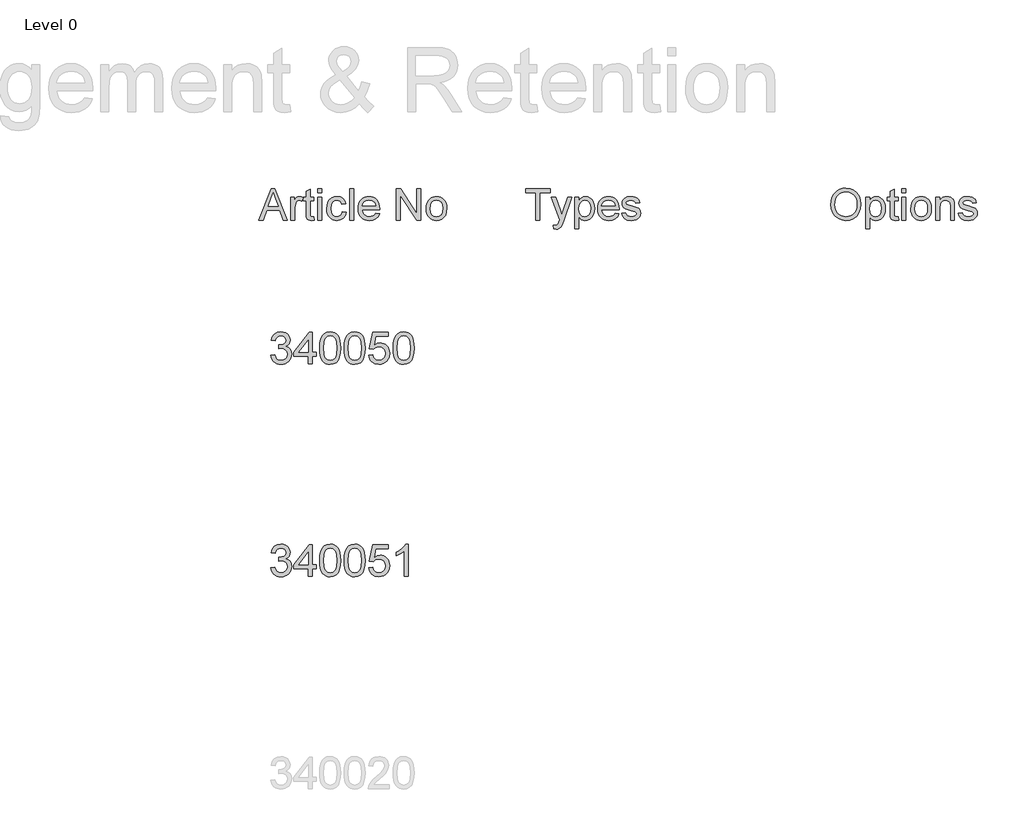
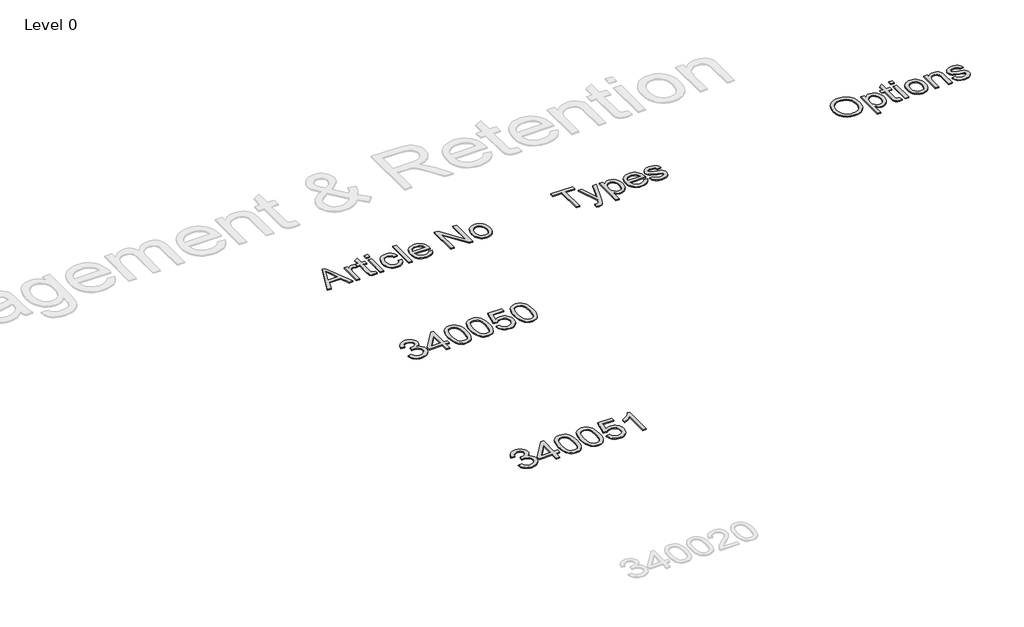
# One storey, part 9 of 10: 5 proxies.
"""IFC4 building model written with IfcOpenShell, lengths in millimetres."""

from ifc_helpers import new_model, si_unit, origin, origin_with_axes, place, context, project, spatial, polyline, outline, extrude, element, save

model = new_model("IFC4")

# Units and contexts
model_context = context("Model", 3, world=origin())
ifc_project = project(units=[si_unit("LENGTHUNIT", "METRE", prefix="MILLI")], contexts=[model_context])

# Site, building, storey
site = spatial("IfcSite", under=ifc_project)
building = spatial("IfcBuilding", under=site)
storey = spatial("IfcBuildingStorey", under=building, Name="Level 0", Elevation=0.0)

# Proxies
placement = place(None, origin())
element("IfcBuildingElementProxy", 1, Name="300mm Arial", ObjectType="300mm Arial", at=placement, inside=storey, context=model_context, shape_type="SweptSolid", body=[
    extrude(outline(polyline([(-6261.3392155, 10357.1231623), (-6223.6680991, 10361.8320519), (-6215.2344044, 10338.1588455), (-6202.8827664, 10322.1743728), (-6186.0061799, 10313.0692934), (-6163.9976395, 10310.034267), (-6138.1723235, 10314.2097276), (-6118.2331193, 10326.7361095), (-6105.4860082, 10345.4245149), (-6101.2369711, 10368.0860458), (-6105.44922, 10389.5979455), (-6118.0859665, 10407.0447491), (-6137.2158303, 10418.6054408), (-6160.9074308, 10422.4590047), (-6187.321358, 10418.3387263), (-6183.1275033, 10456.0098427), (-6177.0942386, 10455.5683843), (-6154.5246782, 10458.2723169), (-6134.3463507, 10466.3841149), (-6120.1093175, 10480.1061133), (-6115.3636398, 10499.6406473), (-6118.8033364, 10515.9102285), (-6129.1224264, 10529.1079951), (-6144.8677758, 10537.8543895), (-6164.5862507, 10540.7698543), (-6184.3415139, 10537.8267984), (-6200.4915334, 10528.9976305), (-6212.2821514, 10514.2823507), (-6218.9592096, 10493.680959), (-6256.6303259, 10498.3898485), (-6245.5386838, 10532.216598), (-6225.8018147, 10557.4716969), (-6198.7992763, 10573.1986522), (-6165.9106259, 10578.4409706), (-6142.2282225, 10575.8565996), (-6120.4771995, 10568.1034866), (-6102.138282, 10555.8714102), (-6088.6921951, 10539.8501494), (-6080.4424414, 10521.3916702), (-6077.6925235, 10501.8479393), (-6080.3044856, 10483.6377805), (-6088.1403721, 10467.1198789), (-6101.0898184, 10453.0483926), (-6119.0424597, 10442.1774796), (-6095.4612238, 10432.649336), (-6077.9868291, 10416.42574), (-6067.1710984, 10394.3896085), (-6063.5658548, 10367.4238582), (-6065.3684766, 10348.3123886), (-6070.7763419, 10330.7092351), (-6079.7894508, 10314.6143978), (-6092.4078033, 10300.0278767), (-6107.7806721, 10287.9245591), (-6125.0573303, 10279.2793322), (-6144.2377779, 10274.092196), (-6165.3220147, 10272.3631507), (-6184.3783021, 10273.8392772), (-6201.7423322, 10278.2676567), (-6217.4141052, 10285.6482892), (-6231.393621, 10295.9811747), (-6243.1152611, 10308.659308), (-6252.0134069, 10323.0756837), (-6258.0880583, 10339.2303018), (-6261.3392155, 10357.1231623)])), origin_with_axes(), (0.0, 0.0, 1.0), 10.0),
    extrude(outline(polyline([(-5908.1725001, 10277.0720402), (-5908.1725001, 10347.7053833), (-6044.7302967, 10347.7053833), (-6044.7302967, 10385.3764996), (-5898.754721, 10573.7320811), (-5870.5013838, 10573.7320811), (-5870.5013838, 10385.3764996), (-5832.8302675, 10385.3764996), (-5832.8302675, 10347.7053833), (-5870.5013838, 10347.7053833), (-5870.5013838, 10277.0720402), (-5908.1725001, 10277.0720402)]), holes=[polyline([(-5908.1725001, 10385.3764996), (-5908.1725001, 10501.7743629), (-5998.3771653, 10385.3764996), (-5908.1725001, 10385.3764996)])]), origin_with_axes(), (0.0, 0.0, 1.0), 10.0),
    extrude(outline(polyline([(-5799.8680407, 10425.3284843), (-5797.0997287, 10473.5670109), (-5788.7947926, 10512.0382705), (-5775.036006, 10541.3308744), (-5755.9061423, 10562.0334337), (-5731.2672456, 10574.3390864), (-5700.9813604, 10578.4409706), (-5677.7680065, 10576.0129495), (-5656.9826738, 10568.728886), (-5639.6002495, 10556.8738887), (-5626.595621, 10540.7330661), (-5616.7731717, 10520.4443741), (-5608.9372852, 10496.1457683), (-5603.8053314, 10465.289666), (-5602.0946801, 10425.3284843), (-5604.835401, 10377.3658691), (-5613.0575635, 10338.98658), (-5626.7335767, 10309.666385), (-5645.8358493, 10288.8810522), (-5670.5299282, 10276.4926261), (-5700.9813604, 10272.3631507), (-5721.7299049, 10274.1565754), (-5740.1240047, 10279.5368496), (-5756.1636597, 10288.5039732), (-5769.8488699, 10301.0579463), (-5782.9822571, 10323.7516669), (-5792.363248, 10352.0279967), (-5797.9918425, 10385.8869358), (-5799.8680407, 10425.3284843)]), holes=[polyline([(-5762.1969244, 10425.4020607), (-5757.7823405, 10366.1454683), (-5752.2641105, 10345.8774696), (-5744.5385886, 10331.8496693), (-5724.8201137, 10315.4881175), (-5700.9813604, 10310.034267), (-5677.1426071, 10315.5065116), (-5657.4241322, 10331.9232457), (-5649.6986103, 10345.9740386), (-5644.1803803, 10366.2374388), (-5639.7657964, 10425.4020607), (-5644.0332275, 10483.3250808), (-5649.3675165, 10503.5264009), (-5656.835521, 10517.8875942), (-5676.5172077, 10535.0492893), (-5701.4228188, 10540.7698543), (-5725.0040547, 10535.729871), (-5743.9499774, 10520.609921), (-5751.9330167, 10504.9749362), (-5757.6351877, 10483.8952979), (-5762.1969244, 10425.4020607)])]), origin_with_axes(), (0.0, 0.0, 1.0), 10.0),
    extrude(outline(polyline([(-5569.1324533, 10425.3284843), (-5566.3641413, 10473.5670109), (-5558.0592053, 10512.0382705), (-5544.3004187, 10541.3308744), (-5525.1705549, 10562.0334337), (-5500.5316583, 10574.3390864), (-5470.245773, 10578.4409706), (-5447.0324191, 10576.0129495), (-5426.2470864, 10568.728886), (-5408.8646621, 10556.8738887), (-5395.8600336, 10540.7330661), (-5386.0375843, 10520.4443741), (-5378.2016978, 10496.1457683), (-5373.069744, 10465.289666), (-5371.3590927, 10425.3284843), (-5374.0998136, 10377.3658691), (-5382.3219762, 10338.98658), (-5395.9979893, 10309.666385), (-5415.1002619, 10288.8810522), (-5439.7943409, 10276.4926261), (-5470.245773, 10272.3631507), (-5490.9943175, 10274.1565754), (-5509.3884173, 10279.5368496), (-5525.4280723, 10288.5039732), (-5539.1132825, 10301.0579463), (-5552.2466697, 10323.7516669), (-5561.6276606, 10352.0279967), (-5567.2562552, 10385.8869358), (-5569.1324533, 10425.3284843)]), holes=[polyline([(-5531.461337, 10425.4020607), (-5527.0467531, 10366.1454683), (-5521.5285231, 10345.8774696), (-5513.8030013, 10331.8496693), (-5494.0845263, 10315.4881175), (-5470.245773, 10310.034267), (-5446.4070197, 10315.5065116), (-5426.6885448, 10331.9232457), (-5418.9630229, 10345.9740386), (-5413.444793, 10366.2374388), (-5409.030209, 10425.4020607), (-5413.2976402, 10483.3250808), (-5418.6319291, 10503.5264009), (-5426.0999336, 10517.8875942), (-5445.7816203, 10535.0492893), (-5470.6872314, 10540.7698543), (-5494.2684673, 10535.729871), (-5513.2143901, 10520.609921), (-5521.1974294, 10504.9749362), (-5526.8996003, 10483.8952979), (-5531.461337, 10425.4020607)])]), origin_with_axes(), (0.0, 0.0, 1.0), 10.0),
    extrude(outline(polyline([(-5338.396866, 10357.1231623), (-5300.7257496, 10361.8320519), (-5293.8095681, 10339.2165062), (-5281.7430387, 10323.0205014), (-5264.5813436, 10313.2808256), (-5242.3796652, 10310.034267), (-5215.3771268, 10314.5500185), (-5195.143617, 10328.0972729), (-5182.5068705, 10349.1125319), (-5178.2946216, 10376.0322969), (-5182.240156, 10401.3793664), (-5194.0767592, 10420.7667475), (-5213.8964017, 10433.0724003), (-5241.791054, 10437.1742845), (-5260.0655921, 10435.5372096), (-5274.8636454, 10430.625985), (-5296.0168601, 10413.6298368), (-5333.6879764, 10418.3387263), (-5300.7257496, 10573.7320811), (-5154.750174, 10573.7320811), (-5154.750174, 10536.0609648), (-5270.2651204, 10536.0609648), (-5286.3783518, 10453.0667867), (-5259.4677839, 10469.4007473), (-5231.269629, 10474.8454008), (-5212.9238137, 10473.1577422), (-5196.0725191, 10468.0947662), (-5180.715745, 10459.6564729), (-5166.8534916, 10447.8428624), (-5155.3778726, 10433.3759029), (-5147.1810019, 10416.977563), (-5142.2628795, 10398.6478426), (-5140.6235053, 10378.3867417), (-5146.5280114, 10340.7156254), (-5153.9086439, 10323.9218123), (-5164.2415294, 10308.4891626), (-5179.8949083, 10292.6840324), (-5198.1602494, 10281.3946536), (-5219.0375526, 10274.6210264), (-5242.526818, 10272.3631507), (-5279.5265497, 10278.1664891), (-5295.2052205, 10285.4206622), (-5309.0030945, 10295.5765046), (-5320.483312, 10308.1281784), (-5329.2090131, 10322.569846), (-5338.396866, 10357.1231623)])), origin_with_axes(), (0.0, 0.0, 1.0), 10.0),
    extrude(outline(polyline([(-5107.6612786, 10425.3284843), (-5104.8929666, 10473.5670109), (-5096.5880305, 10512.0382705), (-5082.8292439, 10541.3308744), (-5063.6993802, 10562.0334337), (-5039.0604835, 10574.3390864), (-5008.7745983, 10578.4409706), (-4985.5612444, 10576.0129495), (-4964.7759116, 10568.728886), (-4947.3934874, 10556.8738887), (-4934.3888588, 10540.7330661), (-4924.5664096, 10520.4443741), (-4916.7305231, 10496.1457683), (-4911.5985692, 10465.289666), (-4909.887918, 10425.3284843), (-4912.6286388, 10377.3658691), (-4920.8508014, 10338.98658), (-4934.5268146, 10309.666385), (-4953.6290872, 10288.8810522), (-4978.3231661, 10276.4926261), (-5008.7745983, 10272.3631507), (-5029.5231428, 10274.1565754), (-5047.9172426, 10279.5368496), (-5063.9568975, 10288.5039732), (-5077.6421078, 10301.0579463), (-5090.775495, 10323.7516669), (-5100.1564859, 10352.0279967), (-5105.7850804, 10385.8869358), (-5107.6612786, 10425.3284843)]), holes=[polyline([(-5069.9901623, 10425.4020607), (-5065.5755783, 10366.1454683), (-5060.0573484, 10345.8774696), (-5052.3318265, 10331.8496693), (-5032.6133516, 10315.4881175), (-5008.7745983, 10310.034267), (-4984.935845, 10315.5065116), (-4965.21737, 10331.9232457), (-4957.4918481, 10345.9740386), (-4951.9736182, 10366.2374388), (-4947.5590343, 10425.4020607), (-4951.8264654, 10483.3250808), (-4957.1607543, 10503.5264009), (-4964.6287589, 10517.8875942), (-4984.3104456, 10535.0492893), (-5009.2160567, 10540.7698543), (-5032.7972926, 10535.729871), (-5051.7432153, 10520.609921), (-5059.7262546, 10504.9749362), (-5065.4284255, 10483.8952979), (-5069.9901623, 10425.4020607)])]), origin_with_axes(), (0.0, 0.0, 1.0), 10.0),
])
element("IfcBuildingElementProxy", 2, Name="300mm Arial", ObjectType="300mm Arial", at=placement, inside=storey, context=model_context, shape_type="SweptSolid", body=[
    extrude(outline(polyline([(-6261.3392155, 8357.1231623), (-6223.6680991, 8361.8320519), (-6215.2344044, 8338.1588455), (-6202.8827664, 8322.1743728), (-6186.0061799, 8313.0692934), (-6163.9976395, 8310.034267), (-6138.1723235, 8314.2097276), (-6118.2331193, 8326.7361095), (-6105.4860082, 8345.4245149), (-6101.2369711, 8368.0860458), (-6105.44922, 8389.5979455), (-6118.0859665, 8407.0447491), (-6137.2158303, 8418.6054408), (-6160.9074308, 8422.4590047), (-6187.321358, 8418.3387263), (-6183.1275033, 8456.0098427), (-6177.0942386, 8455.5683843), (-6154.5246782, 8458.2723169), (-6134.3463507, 8466.3841149), (-6120.1093175, 8480.1061133), (-6115.3636398, 8499.6406473), (-6118.8033364, 8515.9102285), (-6129.1224264, 8529.1079951), (-6144.8677758, 8537.8543895), (-6164.5862507, 8540.7698543), (-6184.3415139, 8537.8267984), (-6200.4915334, 8528.9976305), (-6212.2821514, 8514.2823507), (-6218.9592096, 8493.680959), (-6256.6303259, 8498.3898485), (-6245.5386838, 8532.216598), (-6225.8018147, 8557.4716969), (-6198.7992763, 8573.1986522), (-6165.9106259, 8578.4409706), (-6142.2282225, 8575.8565996), (-6120.4771995, 8568.1034866), (-6102.138282, 8555.8714102), (-6088.6921951, 8539.8501494), (-6080.4424414, 8521.3916702), (-6077.6925235, 8501.8479393), (-6080.3044856, 8483.6377805), (-6088.1403721, 8467.1198789), (-6101.0898184, 8453.0483926), (-6119.0424597, 8442.1774796), (-6095.4612238, 8432.649336), (-6077.9868291, 8416.42574), (-6067.1710984, 8394.3896085), (-6063.5658548, 8367.4238582), (-6065.3684766, 8348.3123886), (-6070.7763419, 8330.7092351), (-6079.7894508, 8314.6143978), (-6092.4078033, 8300.0278767), (-6107.7806721, 8287.9245591), (-6125.0573303, 8279.2793322), (-6144.2377779, 8274.092196), (-6165.3220147, 8272.3631507), (-6184.3783021, 8273.8392772), (-6201.7423322, 8278.2676567), (-6217.4141052, 8285.6482892), (-6231.393621, 8295.9811747), (-6243.1152611, 8308.659308), (-6252.0134069, 8323.0756837), (-6258.0880583, 8339.2303018), (-6261.3392155, 8357.1231623)])), origin_with_axes(), (0.0, 0.0, 1.0), 10.0),
    extrude(outline(polyline([(-5908.1725001, 8277.0720402), (-5908.1725001, 8347.7053833), (-6044.7302967, 8347.7053833), (-6044.7302967, 8385.3764996), (-5898.754721, 8573.7320811), (-5870.5013838, 8573.7320811), (-5870.5013838, 8385.3764996), (-5832.8302675, 8385.3764996), (-5832.8302675, 8347.7053833), (-5870.5013838, 8347.7053833), (-5870.5013838, 8277.0720402), (-5908.1725001, 8277.0720402)]), holes=[polyline([(-5908.1725001, 8385.3764996), (-5908.1725001, 8501.7743629), (-5998.3771653, 8385.3764996), (-5908.1725001, 8385.3764996)])]), origin_with_axes(), (0.0, 0.0, 1.0), 10.0),
    extrude(outline(polyline([(-5799.8680407, 8425.3284843), (-5797.0997287, 8473.5670109), (-5788.7947926, 8512.0382705), (-5775.036006, 8541.3308744), (-5755.9061423, 8562.0334337), (-5731.2672456, 8574.3390864), (-5700.9813604, 8578.4409706), (-5677.7680065, 8576.0129495), (-5656.9826738, 8568.728886), (-5639.6002495, 8556.8738887), (-5626.595621, 8540.7330661), (-5616.7731717, 8520.4443741), (-5608.9372852, 8496.1457683), (-5603.8053314, 8465.289666), (-5602.0946801, 8425.3284843), (-5604.835401, 8377.3658691), (-5613.0575635, 8338.98658), (-5626.7335767, 8309.666385), (-5645.8358493, 8288.8810522), (-5670.5299282, 8276.4926261), (-5700.9813604, 8272.3631507), (-5721.7299049, 8274.1565754), (-5740.1240047, 8279.5368496), (-5756.1636597, 8288.5039732), (-5769.8488699, 8301.0579463), (-5782.9822571, 8323.7516669), (-5792.363248, 8352.0279967), (-5797.9918425, 8385.8869358), (-5799.8680407, 8425.3284843)]), holes=[polyline([(-5762.1969244, 8425.4020607), (-5757.7823405, 8366.1454683), (-5752.2641105, 8345.8774696), (-5744.5385886, 8331.8496693), (-5724.8201137, 8315.4881175), (-5700.9813604, 8310.034267), (-5677.1426071, 8315.5065116), (-5657.4241322, 8331.9232457), (-5649.6986103, 8345.9740386), (-5644.1803803, 8366.2374388), (-5639.7657964, 8425.4020607), (-5644.0332275, 8483.3250808), (-5649.3675165, 8503.5264009), (-5656.835521, 8517.8875942), (-5676.5172077, 8535.0492893), (-5701.4228188, 8540.7698543), (-5725.0040547, 8535.729871), (-5743.9499774, 8520.609921), (-5751.9330167, 8504.9749362), (-5757.6351877, 8483.8952979), (-5762.1969244, 8425.4020607)])]), origin_with_axes(), (0.0, 0.0, 1.0), 10.0),
    extrude(outline(polyline([(-5569.1324533, 8425.3284843), (-5566.3641413, 8473.5670109), (-5558.0592053, 8512.0382705), (-5544.3004187, 8541.3308744), (-5525.1705549, 8562.0334337), (-5500.5316583, 8574.3390864), (-5470.245773, 8578.4409706), (-5447.0324191, 8576.0129495), (-5426.2470864, 8568.728886), (-5408.8646621, 8556.8738887), (-5395.8600336, 8540.7330661), (-5386.0375843, 8520.4443741), (-5378.2016978, 8496.1457683), (-5373.069744, 8465.289666), (-5371.3590927, 8425.3284843), (-5374.0998136, 8377.3658691), (-5382.3219762, 8338.98658), (-5395.9979893, 8309.666385), (-5415.1002619, 8288.8810522), (-5439.7943409, 8276.4926261), (-5470.245773, 8272.3631507), (-5490.9943175, 8274.1565754), (-5509.3884173, 8279.5368496), (-5525.4280723, 8288.5039732), (-5539.1132825, 8301.0579463), (-5552.2466697, 8323.7516669), (-5561.6276606, 8352.0279967), (-5567.2562552, 8385.8869358), (-5569.1324533, 8425.3284843)]), holes=[polyline([(-5531.461337, 8425.4020607), (-5527.0467531, 8366.1454683), (-5521.5285231, 8345.8774696), (-5513.8030013, 8331.8496693), (-5494.0845263, 8315.4881175), (-5470.245773, 8310.034267), (-5446.4070197, 8315.5065116), (-5426.6885448, 8331.9232457), (-5418.9630229, 8345.9740386), (-5413.444793, 8366.2374388), (-5409.030209, 8425.4020607), (-5413.2976402, 8483.3250808), (-5418.6319291, 8503.5264009), (-5426.0999336, 8517.8875942), (-5445.7816203, 8535.0492893), (-5470.6872314, 8540.7698543), (-5494.2684673, 8535.729871), (-5513.2143901, 8520.609921), (-5521.1974294, 8504.9749362), (-5526.8996003, 8483.8952979), (-5531.461337, 8425.4020607)])]), origin_with_axes(), (0.0, 0.0, 1.0), 10.0),
    extrude(outline(polyline([(-5338.396866, 8357.1231623), (-5300.7257496, 8361.8320519), (-5293.8095681, 8339.2165062), (-5281.7430387, 8323.0205014), (-5264.5813436, 8313.2808256), (-5242.3796652, 8310.034267), (-5215.3771268, 8314.5500185), (-5195.143617, 8328.0972729), (-5182.5068705, 8349.1125319), (-5178.2946216, 8376.0322969), (-5182.240156, 8401.3793664), (-5194.0767592, 8420.7667475), (-5213.8964017, 8433.0724003), (-5241.791054, 8437.1742845), (-5260.0655921, 8435.5372096), (-5274.8636454, 8430.625985), (-5296.0168601, 8413.6298368), (-5333.6879764, 8418.3387263), (-5300.7257496, 8573.7320811), (-5154.750174, 8573.7320811), (-5154.750174, 8536.0609648), (-5270.2651204, 8536.0609648), (-5286.3783518, 8453.0667867), (-5259.4677839, 8469.4007473), (-5231.269629, 8474.8454008), (-5212.9238137, 8473.1577422), (-5196.0725191, 8468.0947662), (-5180.715745, 8459.6564729), (-5166.8534916, 8447.8428624), (-5155.3778726, 8433.3759029), (-5147.1810019, 8416.977563), (-5142.2628795, 8398.6478426), (-5140.6235053, 8378.3867417), (-5146.5280114, 8340.7156254), (-5153.9086439, 8323.9218123), (-5164.2415294, 8308.4891626), (-5179.8949083, 8292.6840324), (-5198.1602494, 8281.3946536), (-5219.0375526, 8274.6210264), (-5242.526818, 8272.3631507), (-5279.5265497, 8278.1664891), (-5295.2052205, 8285.4206622), (-5309.0030945, 8295.5765046), (-5320.483312, 8308.1281784), (-5329.2090131, 8322.569846), (-5338.396866, 8357.1231623)])), origin_with_axes(), (0.0, 0.0, 1.0), 10.0),
    extrude(outline(polyline([(-4966.3945924, 8277.0720402), (-5004.0657087, 8277.0720402), (-5004.0657087, 8511.9279059), (-5039.7502623, 8486.5072601), (-5079.4079413, 8467.4877609), (-5079.4079413, 8503.098738), (-5049.8210319, 8519.1935753), (-5024.1888539, 8538.3418332), (-5003.9829353, 8558.7041016), (-4990.6748041, 8578.4409706), (-4966.3945924, 8578.4409706), (-4966.3945924, 8277.0720402)])), origin_with_axes(), (0.0, 0.0, 1.0), 10.0),
])
element("IfcBuildingElementProxy", 3, Name="300mm Arial", ObjectType="300mm Arial", at=placement, inside=storey, context=model_context, shape_type="SweptSolid", body=[
    extrude(outline(polyline([(-3764.0209274, 11631.8762937), (-3764.0209274, 11890.3378322), (-3860.9440044, 11890.3378322), (-3860.9440044, 11927.2609091), (-3630.1747736, 11927.2609091), (-3630.1747736, 11890.3378322), (-3727.0978505, 11890.3378322), (-3727.0978505, 11631.8762937), (-3764.0209274, 11631.8762937)])), origin_with_axes(), (0.0, 0.0, 1.0), 10.0),
    extrude(outline(polyline([(-3593.2516967, 11548.7993706), (-3597.8670813, 11584.3522552), (-3579.1170813, 11581.1070629), (-3561.5930428, 11585.1815822), (-3550.8478505, 11596.5397552), (-3540.7516967, 11623.7272552), (-3537.8670813, 11632.6695629), (-3616.3286198, 11848.7993706), (-3577.3863121, 11848.7993706), (-3535.7757351, 11728.3666783), (-3521.2805428, 11680.1936014), (-3506.7853505, 11722.7416783), (-3464.0209274, 11848.7993706), (-3425.3670813, 11848.7993706), (-3500.871889, 11626.683986), (-3520.4872736, 11578.5109091), (-3530.5293409, 11563.1323033), (-3541.9055428, 11552.4772552), (-3555.1206871, 11546.2573033), (-3570.6795813, 11544.183986), (-3593.2516967, 11548.7993706)])), origin_with_axes(), (0.0, 0.0, 1.0), 10.0),
    extrude(outline(polyline([(-3394.7901582, 11548.7993706), (-3394.7901582, 11848.7993706), (-3357.8670813, 11848.7993706), (-3357.8670813, 11812.5974476), (-3345.8238121, 11830.4550197), (-3332.3382351, 11843.2104283), (-3316.6170813, 11850.8636735), (-3297.8670813, 11853.4147552), (-3272.8971294, 11849.8450437), (-3251.0641967, 11839.1359091), (-3233.2877544, 11821.9363899), (-3220.4872736, 11798.8955245), (-3212.7528986, 11771.6899956), (-3210.1747736, 11741.996486), (-3213.0864323, 11710.418962), (-3221.8214082, 11682.1767745), (-3236.1002544, 11658.7032168), (-3255.6435236, 11641.4315822), (-3278.4049419, 11630.8035774), (-3302.3382351, 11627.2609091), (-3319.3123938, 11629.6317024), (-3334.465639, 11636.7440822), (-3347.4373938, 11647.4802601), (-3357.8670813, 11660.7224476), (-3357.8670813, 11548.7993706), (-3394.7901582, 11548.7993706)]), holes=[polyline([(-3357.8670813, 11738.6070629), (-3353.8736919, 11705.5061014), (-3341.8935236, 11682.3570629), (-3324.2162399, 11668.7272552), (-3303.1315044, 11664.183986), (-3281.7042207, 11668.8895149), (-3263.5762159, 11683.0061014), (-3251.2174419, 11707.0024956), (-3247.0978505, 11741.3474476), (-3251.1182832, 11774.2681206), (-3263.1795813, 11797.7416783), (-3280.8298217, 11811.8041783), (-3301.6170813, 11816.4916783), (-3322.4854707, 11811.5067024), (-3340.8117928, 11796.5517745), (-3353.6032592, 11772.0956447), (-3357.8670813, 11738.6070629)])]), origin_with_axes(), (0.0, 0.0, 1.0), 10.0),
    extrude(outline(polyline([(-3016.7613121, 11696.4916783), (-2980.559389, 11691.8762937), (-2993.6032592, 11664.5986495), (-3014.4175621, 11644.2080245), (-3042.5335476, 11631.4976879), (-3077.4824659, 11627.2609091), (-3100.3926222, 11629.0885834), (-3120.8057832, 11634.5716062), (-3138.7219491, 11643.7099776), (-3154.1411198, 11656.5036976), (-3166.5404587, 11672.5966964), (-3175.3971294, 11691.6329043), (-3180.7111318, 11713.6123214), (-3182.4824659, 11738.5349476), (-3180.6931029, 11764.3026759), (-3175.325014, 11787.0145149), (-3166.3781991, 11806.6704644), (-3153.8526582, 11823.2705245), (-3138.4740524, 11836.4586254), (-3120.9680428, 11845.8786976), (-3101.3346294, 11851.5307408), (-3079.5738121, 11853.4147552), (-3058.5138662, 11851.535248), (-3039.4686438, 11845.8967264), (-3022.438145, 11836.4991903), (-3007.4223698, 11823.3426399), (-2995.165008, 11806.7786375), (-2986.4097496, 11787.1587456), (-2981.1565945, 11764.4829644), (-2979.4055428, 11738.7512937), (-2979.621889, 11728.7993706), (-3145.559389, 11728.7993706), (-3139.168163, 11701.1611495), (-3124.3214082, 11680.8426399), (-3102.8941246, 11668.3486495), (-3076.7613121, 11664.183986), (-3057.1098698, 11666.1130726), (-3040.559389, 11671.9003322), (-3027.1098698, 11681.9063418), (-3016.7613121, 11696.4916783)]), holes=[polyline([(-3145.559389, 11765.7224476), (-3016.3286198, 11765.7224476), (-3021.3226101, 11785.2296591), (-3031.1122736, 11799.183986), (-3052.6387159, 11812.1647552), (-3079.7180428, 11816.4916783), (-3104.6068649, 11813.0391543), (-3125.1867928, 11802.6815822), (-3139.4926823, 11786.5367504), (-3145.559389, 11765.7224476)])]), origin_with_axes(), (0.0, 0.0, 1.0), 10.0),
    extrude(outline(polyline([(-2956.3286198, 11696.4916783), (-2919.4055428, 11701.1070629), (-2913.5822255, 11685.3137937), (-2902.3141967, 11673.7032168), (-2885.5293409, 11666.5637937), (-2863.1555428, 11664.183986), (-2841.0521774, 11666.3654764), (-2825.5113121, 11672.9099476), (-2816.3166005, 11682.3931206), (-2813.2516967, 11693.3907168), (-2816.3346294, 11702.8017745), (-2825.5834274, 11709.9772552), (-2863.5882351, 11720.5061014), (-2919.1891967, 11738.5710052), (-2933.2607111, 11747.6485293), (-2943.4560236, 11759.6647552), (-2949.6489323, 11773.8534572), (-2951.7132351, 11789.4484091), (-2950.0545813, 11803.7542985), (-2945.0786198, 11816.9604283), (-2937.2360717, 11828.543962), (-2926.9776582, 11837.9820629), (-2903.5041005, 11848.9075437), (-2871.7372736, 11853.4147552), (-2847.7048217, 11851.6028562), (-2826.809389, 11846.1671591), (-2810.0065044, 11837.6395149), (-2798.2516967, 11826.5517745), (-2790.4632351, 11812.0836254), (-2785.559389, 11793.4147552), (-2822.4824659, 11788.7993706), (-2827.1429226, 11800.418962), (-2836.3646774, 11809.1719668), (-2850.2378746, 11814.6617504), (-2868.8526582, 11816.4916783), (-2890.0545813, 11814.7428802), (-2904.1891967, 11809.496486), (-2912.1399178, 11801.9243706), (-2914.7901582, 11793.1984091), (-2910.3911198, 11782.4532168), (-2896.6170813, 11774.3041783), (-2864.8141967, 11766.4436014), (-2810.6194851, 11749.0637937), (-2796.3045813, 11740.7524956), (-2785.4512159, 11729.3762937), (-2778.6092688, 11714.8991302), (-2776.3286198, 11697.2849476), (-2779.0059034, 11679.0758129), (-2787.0377544, 11661.9484091), (-2800.1176823, 11647.2458851), (-2817.9391967, 11636.3113899), (-2839.465639, 11629.5235293), (-2863.6603505, 11627.2609091), (-2900.8899178, 11631.6238899), (-2928.059389, 11644.7128322), (-2946.1964082, 11666.3835052), (-2956.3286198, 11696.4916783)])), origin_with_axes(), (0.0, 0.0, 1.0), 10.0),
])
element("IfcBuildingElementProxy", 4, Name="300mm Arial", ObjectType="300mm Arial", at=placement, inside=storey, context=model_context, shape_type="SweptSolid", body=[
    extrude(outline(polyline([(-983.9927919, 11775.6743706), (-981.5318544, 11810.3213057), (-974.1490419, 11840.9928802), (-961.8443544, 11867.6890942), (-944.6177919, 11890.4099476), (-923.5015058, 11908.551474), (-899.5276476, 11921.5097072), (-872.6962173, 11929.2846471), (-843.0072149, 11931.8762937), (-804.2632246, 11927.0085052), (-769.521638, 11912.4051399), (-740.6754842, 11889.0938418), (-719.6177919, 11858.1022552), (-706.7451957, 11820.9267745), (-702.4543303, 11779.0637937), (-706.9705563, 11736.6419187), (-720.5192342, 11698.9436014), (-742.3521669, 11667.8979283), (-771.7211572, 11645.433986), (-806.1652678, 11631.8041783), (-843.2235611, 11627.2609091), (-882.5625034, 11632.2819427), (-917.5024072, 11647.3450437), (-946.2764457, 11671.0890341), (-967.1177919, 11702.152736), (-979.7740419, 11737.8949235), (-983.9927919, 11775.6743706)]), holes=[polyline([(-947.0697149, 11775.3137937), (-945.2240118, 11750.8351278), (-939.6869024, 11729.105861), (-930.4583868, 11710.1259932), (-917.5384649, 11693.8955245), (-901.8330863, 11680.8967264), (-884.2482005, 11671.6118706), (-864.7838075, 11666.0409572), (-843.4399072, 11664.183986), (-821.7309229, 11666.058986), (-802.0366621, 11671.683986), (-784.3571248, 11681.058986), (-768.6923111, 11694.183986), (-755.8670407, 11710.7570028), (-746.7061332, 11730.4760533), (-741.2095887, 11753.3411375), (-739.3774072, 11779.3522552), (-742.5144265, 11812.0385533), (-751.9254842, 11840.2897552), (-767.3671909, 11863.3937216), (-788.5961572, 11880.6383129), (-814.2061332, 11891.3744908), (-842.7908688, 11894.9532168), (-863.3933327, 11893.2292084), (-882.5084169, 11888.0571831), (-900.1361212, 11879.4371411), (-916.2764457, 11867.3690822), (-929.748501, 11851.2715762), (-939.3713976, 11830.5631927), (-945.1451356, 11805.2439319), (-947.0697149, 11775.3137937)])]), origin_with_axes(), (0.0, 0.0, 1.0), 10.0),
    extrude(outline(polyline([(-656.3004842, 11548.7993706), (-656.3004842, 11848.7993706), (-619.3774072, 11848.7993706), (-619.3774072, 11812.5974476), (-607.334138, 11830.4550197), (-593.8485611, 11843.2104283), (-578.1274072, 11850.8636735), (-559.3774072, 11853.4147552), (-534.4074553, 11849.8450437), (-512.5745226, 11839.1359091), (-494.7980803, 11821.9363899), (-481.9975996, 11798.8955245), (-474.2632246, 11771.6899956), (-471.6850996, 11741.996486), (-474.5967582, 11710.418962), (-483.3317342, 11682.1767745), (-497.6105803, 11658.7032168), (-517.1538496, 11641.4315822), (-539.9152678, 11630.8035774), (-563.8485611, 11627.2609091), (-580.8227197, 11629.6317024), (-595.9759649, 11636.7440822), (-608.9477197, 11647.4802601), (-619.3774072, 11660.7224476), (-619.3774072, 11548.7993706), (-656.3004842, 11548.7993706)]), holes=[polyline([(-619.3774072, 11738.6070629), (-615.3840178, 11705.5061014), (-603.4038496, 11682.3570629), (-585.7265659, 11668.7272552), (-564.6418303, 11664.183986), (-543.2145467, 11668.8895149), (-525.0865419, 11683.0061014), (-512.7277678, 11707.0024956), (-508.6081765, 11741.3474476), (-512.6286092, 11774.2681206), (-524.6899072, 11797.7416783), (-542.3401476, 11811.8041783), (-563.1274072, 11816.4916783), (-583.9957967, 11811.5067024), (-602.3221188, 11796.5517745), (-615.1135851, 11772.0956447), (-619.3774072, 11738.6070629)])]), origin_with_axes(), (0.0, 0.0, 1.0), 10.0),
    extrude(outline(polyline([(-351.6850996, 11662.6695629), (-347.0697149, 11630.7945629), (-374.6899072, 11627.2609091), (-392.412263, 11628.793361), (-405.6274072, 11633.3907168), (-414.9663496, 11640.4760533), (-421.0600996, 11649.4724476), (-424.4134649, 11664.9231687), (-425.5312534, 11691.371486), (-425.5312534, 11811.8762937), (-453.2235611, 11811.8762937), (-453.2235611, 11848.7993706), (-425.5312534, 11848.7993706), (-425.5312534, 11901.5157168), (-388.6081765, 11923.2224476), (-388.6081765, 11848.7993706), (-351.6850996, 11848.7993706), (-351.6850996, 11811.8762937), (-388.6081765, 11811.8762937), (-388.6081765, 11692.4532168), (-386.6610611, 11673.4147552), (-380.3509649, 11666.6719668), (-367.7668303, 11664.183986), (-351.6850996, 11662.6695629)])), origin_with_axes(), (0.0, 0.0, 1.0), 10.0),
    extrude(outline(polyline([(-314.7620226, 11631.8762937), (-314.7620226, 11848.7993706), (-277.8389457, 11848.7993706), (-277.8389457, 11631.8762937), (-314.7620226, 11631.8762937)])), origin_with_axes(), (0.0, 0.0, 1.0), 10.0),
    extrude(outline(polyline([(-314.7620226, 11890.3378322), (-314.7620226, 11927.2609091), (-277.8389457, 11927.2609091), (-277.8389457, 11890.3378322), (-314.7620226, 11890.3378322)])), origin_with_axes(), (0.0, 0.0, 1.0), 10.0),
    extrude(outline(polyline([(-231.6850996, 11740.3378322), (-229.6884048, 11768.4312817), (-223.6983207, 11792.6395149), (-213.7148471, 11812.9625317), (-199.7379842, 11829.4003322), (-185.6664697, 11839.9066423), (-170.1346188, 11847.4111495), (-153.1424313, 11851.9138538), (-134.6899072, 11853.4147552), (-114.3195647, 11851.587081), (-95.9008447, 11846.1040581), (-79.4337474, 11836.9656867), (-64.9182726, 11824.1719668), (-53.0710671, 11808.1555906), (-44.6087774, 11789.3492504), (-39.5314036, 11767.7529464), (-37.8389457, 11743.3666783), (-40.8317342, 11706.0649956), (-49.8100996, 11677.6695629), (-64.5126236, 11656.4045389), (-84.677888, 11640.4940822), (-108.6292101, 11630.5692024), (-134.6899072, 11627.2609091), (-155.3577258, 11629.0818226), (-173.9477197, 11634.5445629), (-190.4598892, 11643.6491302), (-204.8942342, 11656.3955245), (-216.6152378, 11672.5673995), (-224.9873832, 11691.9484091), (-230.0106705, 11714.5385533), (-231.6850996, 11740.3378322)]), holes=[polyline([(-194.7620226, 11740.4099476), (-190.4891861, 11706.9934812), (-177.6706765, 11683.1863899), (-158.3798111, 11668.934587), (-134.6899072, 11664.183986), (-111.1081765, 11668.9616302), (-91.8533688, 11683.2945629), (-79.0348592, 11707.4171591), (-74.7620226, 11741.5637937), (-79.0619024, 11774.0067024), (-91.9615419, 11797.4892745), (-111.2433928, 11811.7410774), (-134.6899072, 11816.4916783), (-158.3798111, 11811.7591062), (-177.6706765, 11797.5613899), (-190.4891861, 11773.8083851), (-194.7620226, 11740.4099476)])]), origin_with_axes(), (0.0, 0.0, 1.0), 10.0),
    extrude(outline(polyline([(3.6995158, 11631.8762937), (3.6995158, 11848.7993706), (40.6225928, 11848.7993706), (40.6225928, 11818.5109091), (53.4501168, 11833.7813418), (68.8557658, 11844.6887937), (86.8395399, 11851.2332649), (107.4014389, 11853.4147552), (125.6015591, 11851.6569427), (142.2692274, 11846.3835052), (156.1694678, 11838.2524956), (166.0673043, 11827.9219668), (177.1370158, 11800.7705245), (179.0841312, 11765.0734091), (179.0841312, 11631.8762937), (142.1610543, 11631.8762937), (142.1610543, 11760.0974476), (137.9062466, 11792.7657168), (132.0198283, 11802.4922793), (122.8701889, 11810.0373514), (111.1424245, 11814.8780966), (97.5216312, 11816.4916783), (75.8960303, 11812.8678802), (57.4615351, 11801.996486), (50.0944978, 11793.1217865), (44.8323283, 11780.9928802), (40.6225928, 11746.9724476), (40.6225928, 11631.8762937), (3.6995158, 11631.8762937)])), origin_with_axes(), (0.0, 0.0, 1.0), 10.0),
    extrude(outline(polyline([(216.0072081, 11696.4916783), (252.9302851, 11701.1070629), (258.7536024, 11685.3137937), (270.0216312, 11673.7032168), (286.806487, 11666.5637937), (309.1802851, 11664.183986), (331.2836504, 11666.3654764), (346.8245158, 11672.9099476), (356.0192274, 11682.3931206), (359.0841312, 11693.3907168), (356.0011985, 11702.8017745), (346.7524004, 11709.9772552), (308.7475928, 11720.5061014), (253.1466312, 11738.5710052), (239.0751168, 11747.6485293), (228.8798043, 11759.6647552), (222.6868956, 11773.8534572), (220.6225928, 11789.4484091), (222.2812466, 11803.7542985), (227.2572081, 11816.9604283), (235.0997562, 11828.543962), (245.3581697, 11837.9820629), (268.8317274, 11848.9075437), (300.5985543, 11853.4147552), (324.6310062, 11851.6028562), (345.5264389, 11846.1671591), (362.3293235, 11837.6395149), (374.0841312, 11826.5517745), (381.8725928, 11812.0836254), (386.7764389, 11793.4147552), (349.853362, 11788.7993706), (345.1929053, 11800.418962), (335.9711504, 11809.1719668), (322.0979533, 11814.6617504), (303.4831697, 11816.4916783), (282.2812466, 11814.7428802), (268.1466312, 11809.496486), (260.1959101, 11801.9243706), (257.5456697, 11793.1984091), (261.9447081, 11782.4532168), (275.7187466, 11774.3041783), (307.5216312, 11766.4436014), (361.7163428, 11749.0637937), (376.0312466, 11740.7524956), (386.884612, 11729.3762937), (393.7265591, 11714.8991302), (396.0072081, 11697.2849476), (393.3299245, 11679.0758129), (385.2980735, 11661.9484091), (372.2181456, 11647.2458851), (354.3966312, 11636.3113899), (332.8701889, 11629.5235293), (308.6754774, 11627.2609091), (271.4459101, 11631.6238899), (244.2764389, 11644.7128322), (226.1394197, 11666.3835052), (216.0072081, 11696.4916783)])), origin_with_axes(), (0.0, 0.0, 1.0), 10.0),
])
element("IfcBuildingElementProxy", 5, Name="300mm Arial", ObjectType="300mm Arial", at=placement, inside=storey, context=model_context, shape_type="SweptSolid", body=[
    extrude(outline(polyline([(-6372.2661198, 11631.8762937), (-6254.3574659, 11927.2609091), (-6222.9151582, 11927.2609091), (-6105.0065044, 11631.8762937), (-6144.0209274, 11631.8762937), (-6177.8430428, 11724.183986), (-6299.5016967, 11724.183986), (-6333.2516967, 11631.8762937), (-6372.2661198, 11631.8762937)]), holes=[polyline([(-6285.9440044, 11761.1070629), (-6191.3286198, 11761.1070629), (-6217.9391967, 11833.7272552), (-6238.6363121, 11890.3378322), (-6257.0257351, 11840.0734091), (-6285.9440044, 11761.1070629)])]), origin_with_axes(), (0.0, 0.0, 1.0), 10.0),
    extrude(outline(polyline([(-6070.1747736, 11631.8762937), (-6070.1747736, 11848.7993706), (-6037.8670813, 11848.7993706), (-6037.8670813, 11816.7080245), (-6025.9319851, 11835.3137937), (-6014.934389, 11846.2753322), (-6003.9007351, 11851.6298995), (-5991.8574659, 11853.4147552), (-5973.4680428, 11850.5661976), (-5954.7901582, 11842.0205245), (-5967.121889, 11808.9195629), (-5980.1026582, 11814.5986495), (-5993.0834274, 11816.4916783), (-6004.1080669, 11814.6707649), (-6013.9608313, 11809.2080245), (-6021.9205669, 11800.5181206), (-6027.2661198, 11789.0157168), (-6031.7553024, 11768.3907168), (-6033.2516967, 11745.8907168), (-6033.2516967, 11631.8762937), (-6070.1747736, 11631.8762937)])), origin_with_axes(), (0.0, 0.0, 1.0), 10.0),
    extrude(outline(polyline([(-5853.2516967, 11662.6695629), (-5848.6363121, 11630.7945629), (-5876.2565044, 11627.2609091), (-5893.9788601, 11628.793361), (-5907.1940044, 11633.3907168), (-5916.5329467, 11640.4760533), (-5922.6266967, 11649.4724476), (-5925.9800621, 11664.9231687), (-5927.0978505, 11691.371486), (-5927.0978505, 11811.8762937), (-5954.7901582, 11811.8762937), (-5954.7901582, 11848.7993706), (-5927.0978505, 11848.7993706), (-5927.0978505, 11901.5157168), (-5890.1747736, 11923.2224476), (-5890.1747736, 11848.7993706), (-5853.2516967, 11848.7993706), (-5853.2516967, 11811.8762937), (-5890.1747736, 11811.8762937), (-5890.1747736, 11692.4532168), (-5888.2276582, 11673.4147552), (-5881.9175621, 11666.6719668), (-5869.3334274, 11664.183986), (-5853.2516967, 11662.6695629)])), origin_with_axes(), (0.0, 0.0, 1.0), 10.0),
    extrude(outline(polyline([(-5816.3286198, 11890.3378322), (-5816.3286198, 11927.2609091), (-5779.4055428, 11927.2609091), (-5779.4055428, 11890.3378322), (-5816.3286198, 11890.3378322)])), origin_with_axes(), (0.0, 0.0, 1.0), 10.0),
    extrude(outline(polyline([(-5816.3286198, 11631.8762937), (-5816.3286198, 11848.7993706), (-5779.4055428, 11848.7993706), (-5779.4055428, 11631.8762937), (-5816.3286198, 11631.8762937)])), origin_with_axes(), (0.0, 0.0, 1.0), 10.0),
    extrude(outline(polyline([(-5585.559389, 11710.3378322), (-5548.6363121, 11705.7224476), (-5558.9307832, 11672.8829043), (-5578.2757351, 11648.0661976), (-5604.8502544, 11632.4622312), (-5636.8334274, 11627.2609091), (-5657.5418109, 11629.0750617), (-5676.1092688, 11634.5175197), (-5692.5358012, 11643.5882829), (-5706.8214082, 11656.2873514), (-5718.3846594, 11672.375843), (-5726.6441246, 11691.6148754), (-5731.5998037, 11714.0044488), (-5733.2516967, 11739.5445629), (-5730.4301823, 11772.4021351), (-5721.965639, 11800.8786976), (-5707.7228505, 11823.8744908), (-5687.5666005, 11840.2897552), (-5663.4530188, 11850.1335052), (-5637.3382351, 11853.4147552), (-5606.1393169, 11848.9075437), (-5581.1964082, 11835.3859091), (-5563.3027784, 11813.5710052), (-5553.2516967, 11784.183986), (-5590.1747736, 11779.5686014), (-5596.8724899, 11795.6773754), (-5607.3021774, 11807.2248514), (-5620.886913, 11814.1749716), (-5637.0497736, 11816.4916783), (-5660.9109515, 11811.9303802), (-5679.8502544, 11798.246486), (-5692.2090284, 11774.7008129), (-5696.3286198, 11740.5541783), (-5692.2991726, 11705.9478081), (-5680.2108313, 11682.3210052), (-5661.6140765, 11668.7182408), (-5638.059389, 11664.183986), (-5618.9397976, 11667.0145149), (-5603.2637159, 11675.5061014), (-5591.8604707, 11689.8750918), (-5585.559389, 11710.3378322)])), origin_with_axes(), (0.0, 0.0, 1.0), 10.0),
    extrude(outline(polyline([(-5516.3286198, 11631.8762937), (-5516.3286198, 11927.2609091), (-5479.4055428, 11927.2609091), (-5479.4055428, 11631.8762937), (-5516.3286198, 11631.8762937)])), origin_with_axes(), (0.0, 0.0, 1.0), 10.0),
    extrude(outline(polyline([(-5272.1459274, 11696.4916783), (-5235.9440044, 11691.8762937), (-5248.9878746, 11664.5986495), (-5269.8021774, 11644.2080245), (-5297.918163, 11631.4976879), (-5332.8670813, 11627.2609091), (-5355.7772375, 11629.0885834), (-5376.1903986, 11634.5716062), (-5394.1065645, 11643.7099776), (-5409.5257351, 11656.5036976), (-5421.9250741, 11672.5966964), (-5430.7817448, 11691.6329043), (-5436.0957472, 11713.6123214), (-5437.8670813, 11738.5349476), (-5436.0777183, 11764.3026759), (-5430.7096294, 11787.0145149), (-5421.7628145, 11806.6704644), (-5409.2372736, 11823.2705245), (-5393.8586678, 11836.4586254), (-5376.3526582, 11845.8786976), (-5356.7192448, 11851.5307408), (-5334.9584274, 11853.4147552), (-5313.8984815, 11851.535248), (-5294.8532592, 11845.8967264), (-5277.8227604, 11836.4991903), (-5262.8069851, 11823.3426399), (-5250.5496234, 11806.7786375), (-5241.7943649, 11787.1587456), (-5236.5412099, 11764.4829644), (-5234.7901582, 11738.7512937), (-5235.0065044, 11728.7993706), (-5400.9440044, 11728.7993706), (-5394.5527784, 11701.1611495), (-5379.7060236, 11680.8426399), (-5358.2787399, 11668.3486495), (-5332.1459274, 11664.183986), (-5312.4944851, 11666.1130726), (-5295.9440044, 11671.9003322), (-5282.4944851, 11681.9063418), (-5272.1459274, 11696.4916783)]), holes=[polyline([(-5400.9440044, 11765.7224476), (-5271.7132351, 11765.7224476), (-5276.7072255, 11785.2296591), (-5286.496889, 11799.183986), (-5308.0233313, 11812.1647552), (-5335.1026582, 11816.4916783), (-5359.9914803, 11813.0391543), (-5380.5714082, 11802.6815822), (-5394.8772976, 11786.5367504), (-5400.9440044, 11765.7224476)])]), origin_with_axes(), (0.0, 0.0, 1.0), 10.0),
    extrude(outline(polyline([(-5077.8670813, 11631.8762937), (-5077.8670813, 11927.2609091), (-5038.3478505, 11927.2609091), (-4884.0209274, 11693.246486), (-4884.0209274, 11927.2609091), (-4847.0978505, 11927.2609091), (-4847.0978505, 11631.8762937), (-4886.6170813, 11631.8762937), (-5040.9440044, 11865.9628322), (-5040.9440044, 11631.8762937), (-5077.8670813, 11631.8762937)])), origin_with_axes(), (0.0, 0.0, 1.0), 10.0),
    extrude(outline(polyline([(-4796.3286198, 11740.3378322), (-4794.331925, 11768.4312817), (-4788.3418409, 11792.6395149), (-4778.3583674, 11812.9625317), (-4764.3815044, 11829.4003322), (-4750.3099899, 11839.9066423), (-4734.778139, 11847.4111495), (-4717.7859515, 11851.9138538), (-4699.3334274, 11853.4147552), (-4678.9630849, 11851.587081), (-4660.5443649, 11846.1040581), (-4644.0772676, 11836.9656867), (-4629.5617928, 11824.1719668), (-4617.7145873, 11808.1555906), (-4609.2522976, 11789.3492504), (-4604.1749238, 11767.7529464), (-4602.4824659, 11743.3666783), (-4605.4752544, 11706.0649956), (-4614.4536198, 11677.6695629), (-4629.1561438, 11656.4045389), (-4649.3214082, 11640.4940822), (-4673.2727303, 11630.5692024), (-4699.3334274, 11627.2609091), (-4720.001246, 11629.0818226), (-4738.5912399, 11634.5445629), (-4755.1034094, 11643.6491302), (-4769.5377544, 11656.3955245), (-4781.258758, 11672.5673995), (-4789.6309034, 11691.9484091), (-4794.6541907, 11714.5385533), (-4796.3286198, 11740.3378322)]), holes=[polyline([(-4759.4055428, 11740.4099476), (-4755.1327063, 11706.9934812), (-4742.3141967, 11683.1863899), (-4723.0233313, 11668.934587), (-4699.3334274, 11664.183986), (-4675.7516967, 11668.9616302), (-4656.496889, 11683.2945629), (-4643.6783794, 11707.4171591), (-4639.4055428, 11741.5637937), (-4643.7054226, 11774.0067024), (-4656.6050621, 11797.4892745), (-4675.886913, 11811.7410774), (-4699.3334274, 11816.4916783), (-4723.0233313, 11811.7591062), (-4742.3141967, 11797.5613899), (-4755.1327063, 11773.8083851), (-4759.4055428, 11740.4099476)])]), origin_with_axes(), (0.0, 0.0, 1.0), 10.0),
])

save(model, "model.ifc")
